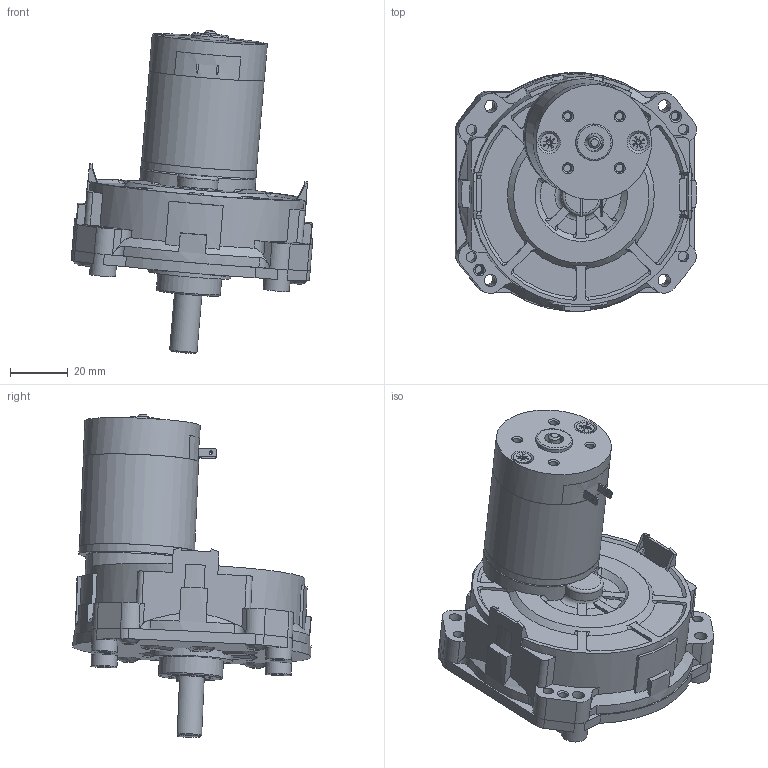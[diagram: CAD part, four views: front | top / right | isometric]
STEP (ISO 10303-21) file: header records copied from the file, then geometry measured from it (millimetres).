
FILE_DESCRIPTION(/* description */ (''),/* implementation_level */ '2;1');
FILE_NAME(/* name */ 'C:\Users\byjeong\Desktop\3D도면\SP42BT.stp',/* time_stamp */ '2015-03-31T15:37:49+09:00',/* author */ ('byjeong'),/* organization */ (''),/* preprocessor_version */ 'ST-DEVELOPER v15.6',/* originating_system */ 'Autodesk Inventor 2015',/* authorisation */ '');
FILE_SCHEMA (('AUTOMOTIVE_DESIGN { 1 0 10303 214 3 1 1 }'));
Length unit declared in the file: millimetre
Products named in the file (11): SP BOX ASSY; DC SP BOX; RM4TYPE_BRUSH_BRAKET_TERMINAL; RM4TYPE_REAR_HOUSING; REAR_HOUSING__ASS'Y_TERMINAL; RM4TYPE_FRONT_HOUSING_; RM4TYPE_PIPE_HOUSING_pi40XL31.2; RM42TYPE_SHAFT; AS 1427 Z - 미터 M3.5 x 5; RM42ㅁBT; SP BOX ASSY.ipt
Bounding box: 83.45 x 82.46 x 111.71 mm (x, y, z)
Volume: 94520.6 mm3; surface area: 65287.7 mm2
Topology: 10 solids, 11 shells, 735 faces, 1919 edges, 1253 vertices
Faces by surface type: plane 380, cylinder 192, cone 101, torus 32, bspline 28, sphere 2
Full cylindrical faces by diameter (mm): 1.2 x2, 2.7 x4, 2.8 x4, 3 x14, 3.05 x2, 3.132 x2, 3.4 x2, 3.5 x4, 3.6 x4, 3.7 x2, 3.969 x1, 4 x5, 4.3 x8, 4.5 x4, 5 x2, 6 x1, 6.1 x2, 6.5 x1, 6.65 x1, 9 x4, 9.5 x2, 9.54 x1, 10.5 x1, 12.5 x1, 12.7 x3, 14 x1, 14.3 x2, 14.5 x2, 16.6 x1, 17.6 x1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
Entity records: 22503 total; most frequent: CARTESIAN_POINT 5912, DIRECTION 3361, ORIENTED_EDGE 3296, EDGE_CURVE 1648, AXIS2_PLACEMENT_3D 1326, VERTEX_POINT 1154, EDGE_LOOP 942, LINE 709
